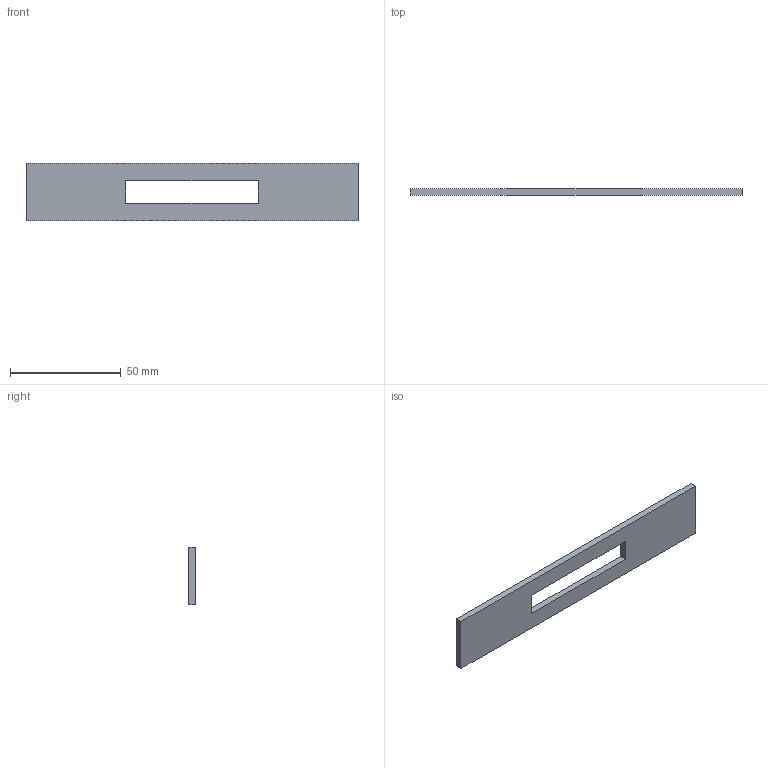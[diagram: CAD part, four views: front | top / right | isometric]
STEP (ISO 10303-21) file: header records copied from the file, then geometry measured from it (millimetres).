
FILE_DESCRIPTION(('FreeCAD Model'),'2;1');
FILE_NAME('Open CASCADE Shape Model','2026-10-15T22:53:25',('FreeCAD'),( 'FreeCAD'),'Open CASCADE STEP processor 7.8','FreeCAD','Unknown');
FILE_SCHEMA(('AUTOMOTIVE_DESIGN { 1 0 10303 214 1 1 1 1 }'));
Length unit declared in the file: millimetre
Products named in the file (1): Open CASCADE STEP translator 7.8 13
Bounding box: 150 x 3 x 26 mm (x, y, z)
Volume: 9900 mm3; surface area: 8076 mm2
Topology: 1 solids, 1 shells, 10 faces, 24 edges, 16 vertices
Faces by surface type: plane 10
Entity records: 302 total; most frequent: CARTESIAN_POINT 51, ORIENTED_EDGE 48, DIRECTION 46, EDGE_CURVE 24, LINE 24, VECTOR 24, VERTEX_POINT 16, FACE_BOUND 12
